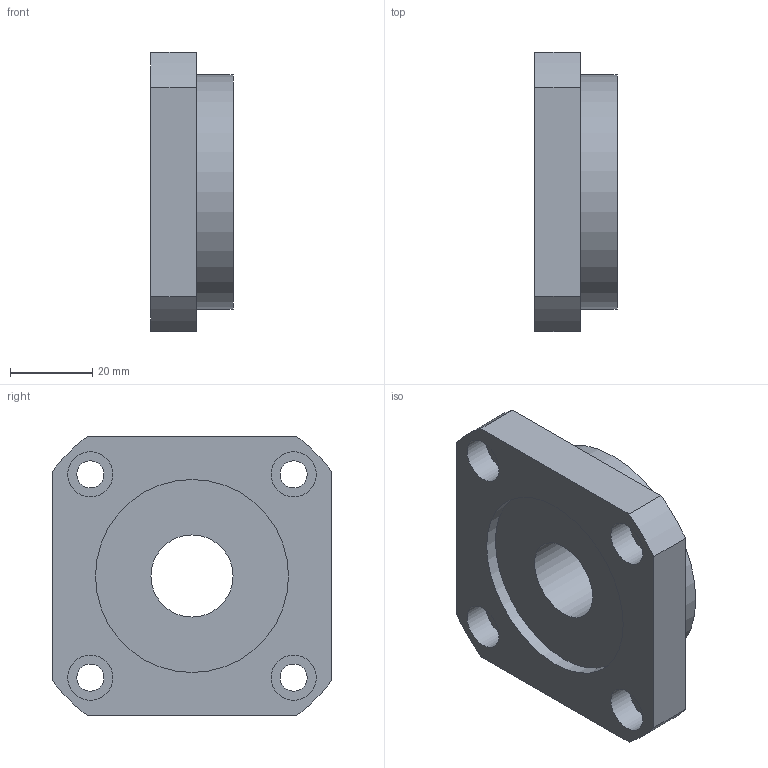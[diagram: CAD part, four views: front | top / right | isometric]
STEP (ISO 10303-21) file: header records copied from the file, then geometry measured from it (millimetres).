
FILE_DESCRIPTION((''),'2;1');
FILE_NAME('D:\製品 (図面)\カタログ用3D\ネジ関連\STEP形式\FF\FF20.stp','2010-06-01T16:42:19',('Tsuchiya'),(''),'Autodesk Inventor 10','Autodesk Inventor 10','');
FILE_SCHEMA(('AUTOMOTIVE_DESIGN { 1 0 10303 214 1 1 1 1 }'));
Length unit declared in the file: millimetre
Products named in the file (1): FF20
Bounding box: 20 x 68 x 68 mm (x, y, z)
Volume: 54496.5 mm3; surface area: 15508 mm2
Topology: 1 solids, 1 shells, 29 faces, 60 edges, 40 vertices
Faces by surface type: cylinder 16, plane 13
Full cylindrical faces by diameter (mm): 6.6 x4, 11 x4, 20 x1, 47 x2, 57 x1
Entity records: 769 total; most frequent: DIRECTION 140, CARTESIAN_POINT 118, ORIENTED_EDGE 96, AXIS2_PLACEMENT_3D 62, EDGE_LOOP 58, EDGE_CURVE 48, VERTEX_POINT 40, CIRCLE 32
